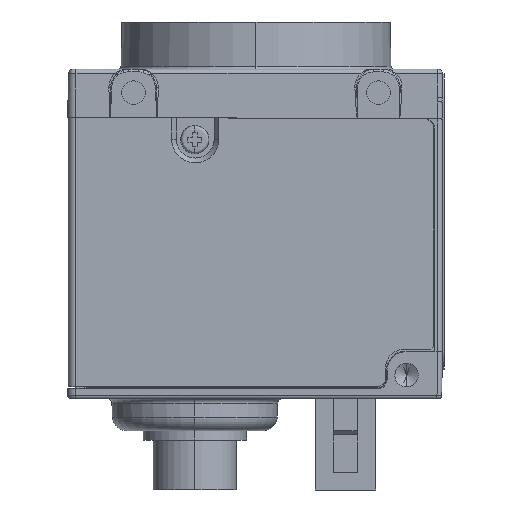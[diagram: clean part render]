
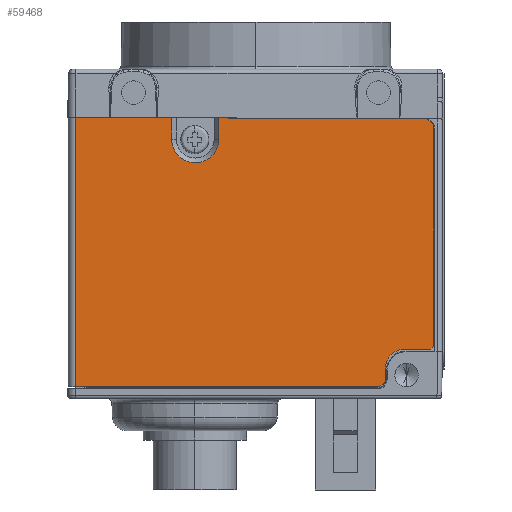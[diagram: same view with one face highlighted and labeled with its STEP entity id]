
A CAD part, left-side view. The second image highlights one B-rep face of the part: STEP entity #59468.
In plain terms, the highlighted planar face has unit normal (-1, 0, 0).
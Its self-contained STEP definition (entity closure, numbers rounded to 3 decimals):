
#1634 = VECTOR ( 'NONE', #11665, 1000. ) ;
#1718 = EDGE_CURVE ( 'NONE', #11471, #71685, #63878, .T. ) ;
#2120 = CARTESIAN_POINT ( 'NONE',  ( -20., 19.95, -38.75 ) ) ;
#2275 = VERTEX_POINT ( 'NONE', #36695 ) ;
#2913 = DIRECTION ( 'NONE',  ( 0., -1., 0. ) ) ;
#5212 = LINE ( 'NONE', #20675, #89151 ) ;
#6614 = CARTESIAN_POINT ( 'NONE',  ( -20., -18.85, -38.95 ) ) ;
#7567 = VERTEX_POINT ( 'NONE', #30357 ) ;
#7640 = CARTESIAN_POINT ( 'NONE',  ( -20., -13.75, -36.75 ) ) ;
#7916 = LINE ( 'NONE', #29886, #89261 ) ;
#9068 = EDGE_CURVE ( 'NONE', #88039, #78105, #26857, .T. ) ;
#9281 = ORIENTED_EDGE ( 'NONE', *, *, #17553, .T. ) ;
#9519 = CARTESIAN_POINT ( 'NONE',  ( -20., 2.95, -10.15 ) ) ;
#9541 = VECTOR ( 'NONE', #2913, 1000. ) ;
#11471 = VERTEX_POINT ( 'NONE', #14404 ) ;
#11665 = DIRECTION ( 'NONE',  ( 0., -1., 0. ) ) ;
#12034 = LINE ( 'NONE', #35453, #31060 ) ;
#13576 = DIRECTION ( 'NONE',  ( 0., 0., -1. ) ) ;
#14397 = PLANE ( 'NONE',  #40178 ) ;
#14404 = CARTESIAN_POINT ( 'NONE',  ( -20., -15.75, -34.75 ) ) ;
#14456 = CARTESIAN_POINT ( 'NONE',  ( -20., 19.15, -38.95 ) ) ;
#14759 = DIRECTION ( 'NONE',  ( 0., -1., 0. ) ) ;
#14965 = CARTESIAN_POINT ( 'NONE',  ( -20., 8.95, -12.45 ) ) ;
#17553 = EDGE_CURVE ( 'NONE', #105092, #65362, #81048, .T. ) ;
#17572 = VERTEX_POINT ( 'NONE', #75637 ) ;
#18228 = VERTEX_POINT ( 'NONE', #61918 ) ;
#19265 = CARTESIAN_POINT ( 'NONE',  ( -20., 2.95, -10.3 ) ) ;
#19410 = LINE ( 'NONE', #85745, #62660 ) ;
#19444 = VERTEX_POINT ( 'NONE', #7640 ) ;
#20675 = CARTESIAN_POINT ( 'NONE',  ( -20., -13.75, -38.75 ) ) ;
#22018 = CARTESIAN_POINT ( 'NONE',  ( -20., -18.55, -34.75 ) ) ;
#22993 = CARTESIAN_POINT ( 'NONE',  ( -20., 3.95, -10.15 ) ) ;
#24146 = CARTESIAN_POINT ( 'NONE',  ( -20., -18.85, -38.95 ) ) ;
#24319 = VECTOR ( 'NONE', #50034, 1000. ) ;
#24730 = ORIENTED_EDGE ( 'NONE', *, *, #102482, .F. ) ;
#25992 = ORIENTED_EDGE ( 'NONE', *, *, #9068, .F. ) ;
#26443 = CARTESIAN_POINT ( 'NONE',  ( -20., 3.95, -12.45 ) ) ;
#26803 = ORIENTED_EDGE ( 'NONE', *, *, #93109, .T. ) ;
#26857 = LINE ( 'NONE', #101745, #45964 ) ;
#27288 = EDGE_CURVE ( 'NONE', #19444, #11471, #44708, .T. ) ;
#27917 = ORIENTED_EDGE ( 'NONE', *, *, #74810, .T. ) ;
#28682 = VERTEX_POINT ( 'NONE', #26443 ) ;
#29886 = CARTESIAN_POINT ( 'NONE',  ( -20., 3.95, -8.967 ) ) ;
#30357 = CARTESIAN_POINT ( 'NONE',  ( -20., -13.75, -38.15 ) ) ;
#31060 = VECTOR ( 'NONE', #43661, 1000. ) ;
#31086 = LINE ( 'NONE', #51560, #9541 ) ;
#33623 = ORIENTED_EDGE ( 'NONE', *, *, #27288, .T. ) ;
#34474 = EDGE_CURVE ( 'NONE', #78105, #97779, #94360, .T. ) ;
#35453 = CARTESIAN_POINT ( 'NONE',  ( -20., -32.875, -24.925 ) ) ;
#35981 = CARTESIAN_POINT ( 'NONE',  ( -20., 2.95, -10.15 ) ) ;
#36695 = CARTESIAN_POINT ( 'NONE',  ( -20., 19.15, -10.15 ) ) ;
#37003 = DIRECTION ( 'NONE',  ( 0., -0.707, 0.707 ) ) ;
#39026 = EDGE_CURVE ( 'NONE', #105092, #2275, #46770, .T. ) ;
#39932 = CARTESIAN_POINT ( 'NONE',  ( -20., -15.75, -36.75 ) ) ;
#40178 = AXIS2_PLACEMENT_3D ( 'NONE', #6614, #63429, #14759 ) ;
#40774 = AXIS2_PLACEMENT_3D ( 'NONE', #39932, #96890, #48109 ) ;
#41646 = ORIENTED_EDGE ( 'NONE', *, *, #80913, .F. ) ;
#42582 = DIRECTION ( 'NONE',  ( 0., -1., 0. ) ) ;
#43661 = DIRECTION ( 'NONE',  ( 0., 0.707, 0.707 ) ) ;
#43832 = ORIENTED_EDGE ( 'NONE', *, *, #72030, .T. ) ;
#43952 = DIRECTION ( 'NONE',  ( -1., 0., 0. ) ) ;
#44087 = LINE ( 'NONE', #24146, #87346 ) ;
#44247 = VECTOR ( 'NONE', #54976, 1000. ) ;
#44708 = CIRCLE ( 'NONE', #40774, 2. ) ;
#45964 = VECTOR ( 'NONE', #52962, 1000. ) ;
#46770 = LINE ( 'NONE', #14456, #44247 ) ;
#46930 = ORIENTED_EDGE ( 'NONE', *, *, #54326, .T. ) ;
#48109 = DIRECTION ( 'NONE',  ( 0., 1., 0. ) ) ;
#50034 = DIRECTION ( 'NONE',  ( 0., -0.707, 0.707 ) ) ;
#50562 = EDGE_CURVE ( 'NONE', #97779, #17572, #99417, .T. ) ;
#50939 = EDGE_LOOP ( 'NONE', ( #91621, #27917, #79553, #43832, #82354, #98546, #25992, #26803, #90345, #24730, #41646, #97026, #9281, #86425, #46930, #33623 ) ) ;
#51560 = CARTESIAN_POINT ( 'NONE',  ( -20., 19.15, -10.15 ) ) ;
#52418 = DIRECTION ( 'NONE',  ( 0., -1., 0. ) ) ;
#52962 = DIRECTION ( 'NONE',  ( 0., -1., 0. ) ) ;
#54326 = EDGE_CURVE ( 'NONE', #7567, #19444, #5212, .T. ) ;
#54976 = DIRECTION ( 'NONE',  ( 0., 0., 1. ) ) ;
#56057 = VECTOR ( 'NONE', #52418, 1000. ) ;
#59468 = ADVANCED_FACE ( 'NONE', ( #79371 ), #14397, .T. ) ;
#60204 = EDGE_CURVE ( 'NONE', #18228, #83021, #44087, .T. ) ;
#60573 = CARTESIAN_POINT ( 'NONE',  ( -20., 19.15, -10.3 ) ) ;
#61213 = VERTEX_POINT ( 'NONE', #94523 ) ;
#61644 = VECTOR ( 'NONE', #93796, 1000. ) ;
#61918 = CARTESIAN_POINT ( 'NONE',  ( -20., -18.85, -34.45 ) ) ;
#62660 = VECTOR ( 'NONE', #37003, 1000. ) ;
#63429 = DIRECTION ( 'NONE',  ( -1., 0., 0. ) ) ;
#63878 = LINE ( 'NONE', #68468, #1634 ) ;
#65362 = VERTEX_POINT ( 'NONE', #104101 ) ;
#66107 = EDGE_CURVE ( 'NONE', #99582, #28682, #96524, .T. ) ;
#67554 = LINE ( 'NONE', #98860, #24319 ) ;
#68468 = CARTESIAN_POINT ( 'NONE',  ( -20., -18.85, -34.75 ) ) ;
#71685 = VERTEX_POINT ( 'NONE', #22018 ) ;
#72030 = EDGE_CURVE ( 'NONE', #83021, #17572, #12034, .T. ) ;
#72682 = VECTOR ( 'NONE', #83669, 1000. ) ;
#74810 = EDGE_CURVE ( 'NONE', #71685, #18228, #19410, .T. ) ;
#75637 = CARTESIAN_POINT ( 'NONE',  ( -20., -18.25, -10.3 ) ) ;
#78105 = VERTEX_POINT ( 'NONE', #9519 ) ;
#78485 = VECTOR ( 'NONE', #42582, 1000. ) ;
#79371 = FACE_OUTER_BOUND ( 'NONE', #50939, .T. ) ;
#79553 = ORIENTED_EDGE ( 'NONE', *, *, #60204, .T. ) ;
#80913 = EDGE_CURVE ( 'NONE', #2275, #61213, #31086, .T. ) ;
#81048 = LINE ( 'NONE', #2120, #78485 ) ;
#81079 = DIRECTION ( 'NONE',  ( 0., 0., 1. ) ) ;
#82354 = ORIENTED_EDGE ( 'NONE', *, *, #50562, .F. ) ;
#83021 = VERTEX_POINT ( 'NONE', #92002 ) ;
#83307 = LINE ( 'NONE', #85592, #61644 ) ;
#83669 = DIRECTION ( 'NONE',  ( 0., 0., -1. ) ) ;
#85233 = EDGE_CURVE ( 'NONE', #65362, #7567, #67554, .T. ) ;
#85592 = CARTESIAN_POINT ( 'NONE',  ( -20., 8.95, -8.967 ) ) ;
#85745 = CARTESIAN_POINT ( 'NONE',  ( -20., -16.6, -36.7 ) ) ;
#86425 = ORIENTED_EDGE ( 'NONE', *, *, #85233, .T. ) ;
#87346 = VECTOR ( 'NONE', #81079, 1000. ) ;
#88039 = VERTEX_POINT ( 'NONE', #22993 ) ;
#89151 = VECTOR ( 'NONE', #93951, 1000. ) ;
#89261 = VECTOR ( 'NONE', #13576, 1000. ) ;
#90345 = ORIENTED_EDGE ( 'NONE', *, *, #66107, .F. ) ;
#91621 = ORIENTED_EDGE ( 'NONE', *, *, #1718, .T. ) ;
#92002 = CARTESIAN_POINT ( 'NONE',  ( -20., -18.85, -10.9 ) ) ;
#92675 = CARTESIAN_POINT ( 'NONE',  ( -20., 6.45, -12.45 ) ) ;
#93109 = EDGE_CURVE ( 'NONE', #88039, #28682, #7916, .T. ) ;
#93796 = DIRECTION ( 'NONE',  ( 0., 0., -1. ) ) ;
#93951 = DIRECTION ( 'NONE',  ( 0., 0., 1. ) ) ;
#93988 = AXIS2_PLACEMENT_3D ( 'NONE', #92675, #43952, #100913 ) ;
#94360 = LINE ( 'NONE', #35981, #72682 ) ;
#94523 = CARTESIAN_POINT ( 'NONE',  ( -20., 8.95, -10.15 ) ) ;
#96459 = CARTESIAN_POINT ( 'NONE',  ( -20., 19.15, -38.75 ) ) ;
#96524 = CIRCLE ( 'NONE', #93988, 2.5 ) ;
#96890 = DIRECTION ( 'NONE',  ( 1., 0., 0. ) ) ;
#97026 = ORIENTED_EDGE ( 'NONE', *, *, #39026, .F. ) ;
#97779 = VERTEX_POINT ( 'NONE', #19265 ) ;
#98546 = ORIENTED_EDGE ( 'NONE', *, *, #34474, .F. ) ;
#98860 = CARTESIAN_POINT ( 'NONE',  ( -20., -15.9, -36. ) ) ;
#99417 = LINE ( 'NONE', #60573, #56057 ) ;
#99582 = VERTEX_POINT ( 'NONE', #14965 ) ;
#100913 = DIRECTION ( 'NONE',  ( 0., 0., 1. ) ) ;
#101745 = CARTESIAN_POINT ( 'NONE',  ( -20., 3.95, -10.15 ) ) ;
#102482 = EDGE_CURVE ( 'NONE', #61213, #99582, #83307, .T. ) ;
#104101 = CARTESIAN_POINT ( 'NONE',  ( -20., -13.15, -38.75 ) ) ;
#105092 = VERTEX_POINT ( 'NONE', #96459 ) ;
